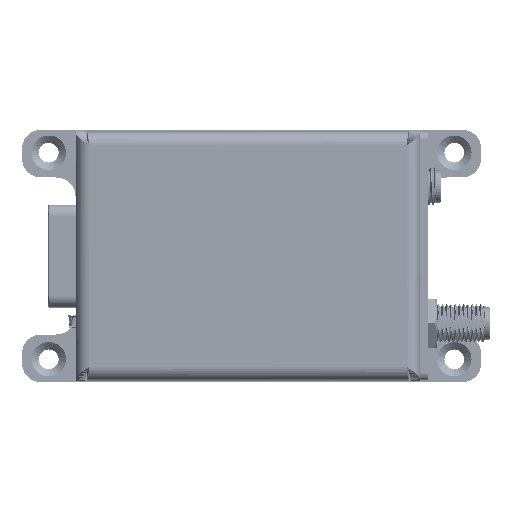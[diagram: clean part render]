
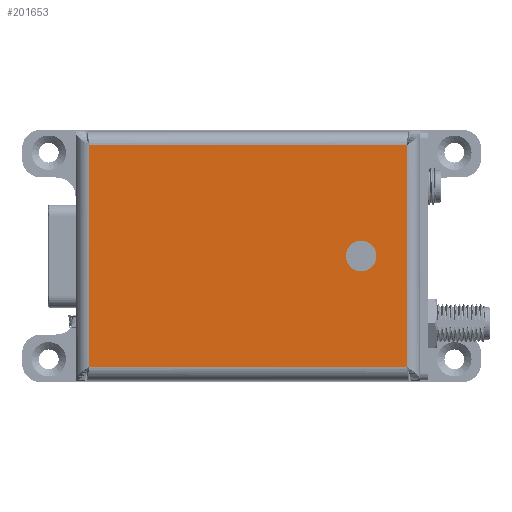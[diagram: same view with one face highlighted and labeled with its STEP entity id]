
A CAD part, front view. The second image highlights one B-rep face of the part: STEP entity #201653.
In plain terms, the highlighted planar face has unit normal (0, -1, 0).
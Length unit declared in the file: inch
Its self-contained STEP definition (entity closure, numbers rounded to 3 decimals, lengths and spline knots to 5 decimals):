
#8036 = VERTEX_POINT ( 'NONE', #87218 ) ;
#12664 = CARTESIAN_POINT ( 'NONE',  ( 1.0375, 0.011, 0.725 ) ) ;
#15447 = DIRECTION ( 'NONE',  ( 0., 0., 1. ) ) ;
#18002 = ORIENTED_EDGE ( 'NONE', *, *, #55219, .T. ) ;
#19948 = CARTESIAN_POINT ( 'NONE',  ( -1.05543, 0.011, -0.725 ) ) ;
#21161 = CARTESIAN_POINT ( 'NONE',  ( 0.74, 0.011, 0. ) ) ;
#23972 = EDGE_LOOP ( 'NONE', ( #18002, #104921 ) ) ;
#26990 = CARTESIAN_POINT ( 'NONE',  ( 1.0375, 0.011, -0.74293 ) ) ;
#32367 = EDGE_CURVE ( 'NONE', #152587, #68065, #168371, .T. ) ;
#33037 = LINE ( 'NONE', #56052, #176571 ) ;
#36708 = AXIS2_PLACEMENT_3D ( 'NONE', #21161, #152283, #40041 ) ;
#38610 = AXIS2_PLACEMENT_3D ( 'NONE', #96487, #227367, #115347 ) ;
#39878 = PLANE ( 'NONE',  #38610 ) ;
#40041 = DIRECTION ( 'NONE',  ( 0., 0., 1. ) ) ;
#51812 = CARTESIAN_POINT ( 'NONE',  ( -1.0375, 0.011, 0.725 ) ) ;
#53893 = VECTOR ( 'NONE', #79537, 39.37008 ) ;
#55219 = EDGE_CURVE ( 'NONE', #114455, #8036, #144496, .T. ) ;
#56052 = CARTESIAN_POINT ( 'NONE',  ( -1.0375, 0.011, 0.74293 ) ) ;
#58564 = ORIENTED_EDGE ( 'NONE', *, *, #179755, .T. ) ;
#68065 = VERTEX_POINT ( 'NONE', #92513 ) ;
#79537 = DIRECTION ( 'NONE',  ( -1., 0., 0. ) ) ;
#87218 = CARTESIAN_POINT ( 'NONE',  ( 0.74, 0.011, -0.1 ) ) ;
#91330 = ORIENTED_EDGE ( 'NONE', *, *, #32367, .T. ) ;
#92513 = CARTESIAN_POINT ( 'NONE',  ( 1.0375, 0.011, -0.725 ) ) ;
#96487 = CARTESIAN_POINT ( 'NONE',  ( -1.0625, 0.011, 0.75 ) ) ;
#103249 = CARTESIAN_POINT ( 'NONE',  ( -1.0375, 0.011, -0.725 ) ) ;
#103777 = LINE ( 'NONE', #210490, #53893 ) ;
#104921 = ORIENTED_EDGE ( 'NONE', *, *, #199239, .T. ) ;
#110651 = VERTEX_POINT ( 'NONE', #12664 ) ;
#112467 = EDGE_CURVE ( 'NONE', #178225, #152587, #33037, .T. ) ;
#114455 = VERTEX_POINT ( 'NONE', #154158 ) ;
#115347 = DIRECTION ( 'NONE',  ( 0., 0., 1. ) ) ;
#127766 = DIRECTION ( 'NONE',  ( 0., 1., 0. ) ) ;
#130709 = EDGE_LOOP ( 'NONE', ( #219855, #228734, #91330, #58564 ) ) ;
#132967 = LINE ( 'NONE', #26990, #176813 ) ;
#144496 = CIRCLE ( 'NONE', #36708, 0.1 ) ;
#152283 = DIRECTION ( 'NONE',  ( 0., 1., 0. ) ) ;
#152587 = VERTEX_POINT ( 'NONE', #103249 ) ;
#154158 = CARTESIAN_POINT ( 'NONE',  ( 0.74, 0.011, 0.1 ) ) ;
#158055 = DIRECTION ( 'NONE',  ( 0., 0., 1. ) ) ;
#162069 = AXIS2_PLACEMENT_3D ( 'NONE', #239889, #127766, #15447 ) ;
#162665 = FACE_BOUND ( 'NONE', #23972, .T. ) ;
#167178 = EDGE_CURVE ( 'NONE', #110651, #178225, #103777, .T. ) ;
#168221 = DIRECTION ( 'NONE',  ( 0., 0., -1. ) ) ;
#168327 = CIRCLE ( 'NONE', #162069, 0.1 ) ;
#168371 = LINE ( 'NONE', #19948, #218156 ) ;
#176571 = VECTOR ( 'NONE', #168221, 39.37008 ) ;
#176813 = VECTOR ( 'NONE', #158055, 39.37008 ) ;
#178225 = VERTEX_POINT ( 'NONE', #51812 ) ;
#179755 = EDGE_CURVE ( 'NONE', #68065, #110651, #132967, .T. ) ;
#191902 = DIRECTION ( 'NONE',  ( 1., 0., 0. ) ) ;
#199239 = EDGE_CURVE ( 'NONE', #8036, #114455, #168327, .T. ) ;
#201653 = ADVANCED_FACE ( 'NONE', ( #162665, #212457 ), #39878, .F. ) ;
#210490 = CARTESIAN_POINT ( 'NONE',  ( 1.05543, 0.011, 0.725 ) ) ;
#212457 = FACE_OUTER_BOUND ( 'NONE', #130709, .T. ) ;
#218156 = VECTOR ( 'NONE', #191902, 39.37008 ) ;
#219855 = ORIENTED_EDGE ( 'NONE', *, *, #167178, .T. ) ;
#227367 = DIRECTION ( 'NONE',  ( 0., 1., 0. ) ) ;
#228734 = ORIENTED_EDGE ( 'NONE', *, *, #112467, .T. ) ;
#239889 = CARTESIAN_POINT ( 'NONE',  ( 0.74, 0.011, 0. ) ) ;
